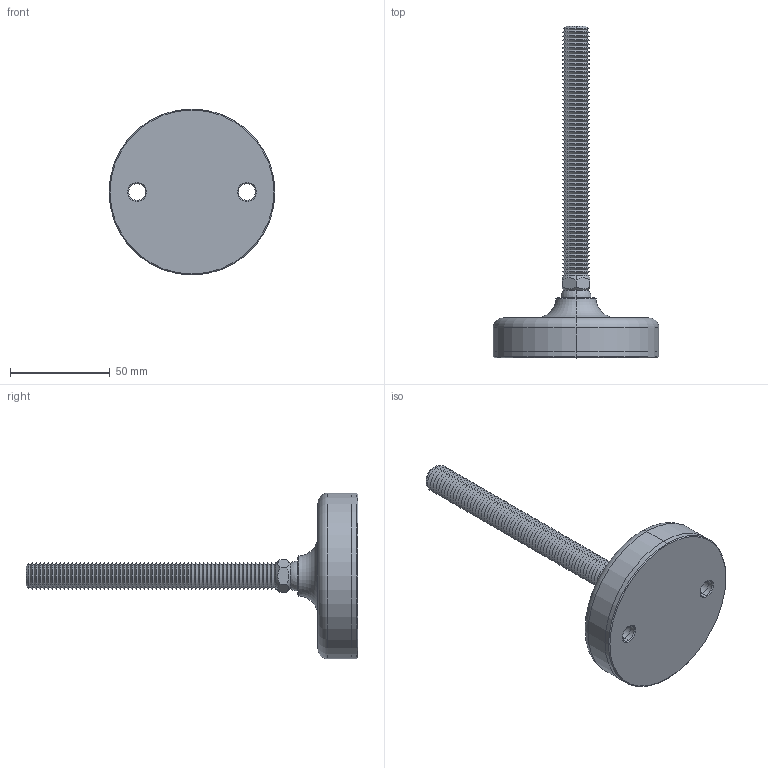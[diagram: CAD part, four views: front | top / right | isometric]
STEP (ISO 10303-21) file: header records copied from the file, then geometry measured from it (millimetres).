
FILE_DESCRIPTION (( 'STEP AP203' ), '1' );
FILE_NAME ('34724.W1403.step', '2019-11-28T22:10:14', ( '' ), ( '' ), 'SwSTEP 2.0', 'SolidWorks 2017', '' );
FILE_SCHEMA (( 'CONFIG_CONTROL_DESIGN' ));
Length unit declared in the file: millimetre
Products named in the file (4): Part3_34724.W1403; Part1_34724.W1403; Part2_34724.W1403; 34724.W1403
Assembly tree (3 placements, depth 2):
  34724.W1403
    Part1_34724.W1403
    Part2_34724.W1403
    Part3_34724.W1403
Bounding box: 83 x 166 x 83 mm (x, y, z)
Volume: 125932 mm3; surface area: 37985.4 mm2
Topology: 3 solids, 3 shells, 300 faces, 615 edges, 321 vertices
Faces by surface type: cone 266, plane 14, cylinder 12, sphere 4, torus 4
Entity records: 8158 total; most frequent: DIRECTION 1516, CARTESIAN_POINT 1372, ORIENTED_EDGE 1212, AXIS2_PLACEMENT_3D 616, EDGE_CURVE 606, VERTEX_POINT 316, EDGE_LOOP 312, CIRCLE 310
